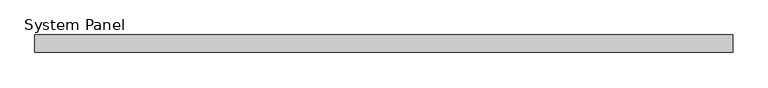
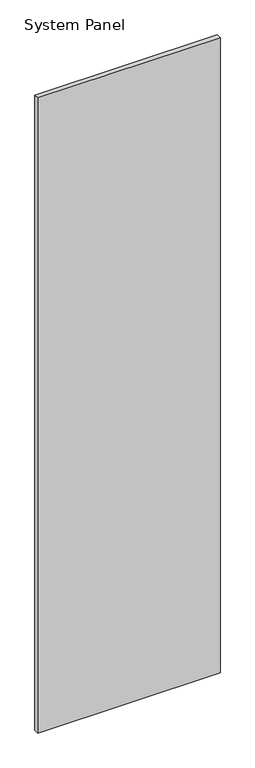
"""IFC4 building model written with IfcOpenShell, lengths in millimetres: plate geometry, System Panel : Purline 25mm Vertical - Plain RHEA - PUR."""

from ifc_helpers import new_model, si_unit, origin, origin_with_axes, place, context, project, spatial, polyline, outline, extrude, source, transform, mapped, element, save


def system_panel_16ee6be8(model_context):
    return source(origin(), model_context, "Body", "SweptSolid", [
        extrude(outline(polyline([(500.0, -25.0), (-500.0, -25.0), (-500.0, 0.0), (500.0, 0.0), (500.0, -25.0)])), origin_with_axes(), (0.0, 0.0, 1.0), 3679.9704237),
    ])


if __name__ == "__main__":
    model = new_model("IFC4")
    model_context = context("Model", 3, world=origin())
    ifc_project = project(units=[si_unit("LENGTHUNIT", "METRE", prefix="MILLI")], contexts=[model_context])
    site = spatial("IfcSite", under=ifc_project)
    building = spatial("IfcBuilding", under=site)
    placement = place(None, origin())
    system_panel_shape = system_panel_16ee6be8(model_context)
    element("IfcPlate", 1, ObjectType="System Panel : Purline 25mm Vertical - Plain RHEA - PUR", at=placement, inside=building, context=model_context, shape_type="MappedRepresentation", body=[
        mapped(system_panel_shape, transform((0.0, 0.0, 0.0), x_axis=(1.0, 0.0, 0.0), y_axis=(0.0, 1.0, 0.0), z_axis=(0.0, 0.0, 1.0))),
    ])
    save(model, "model.ifc")
